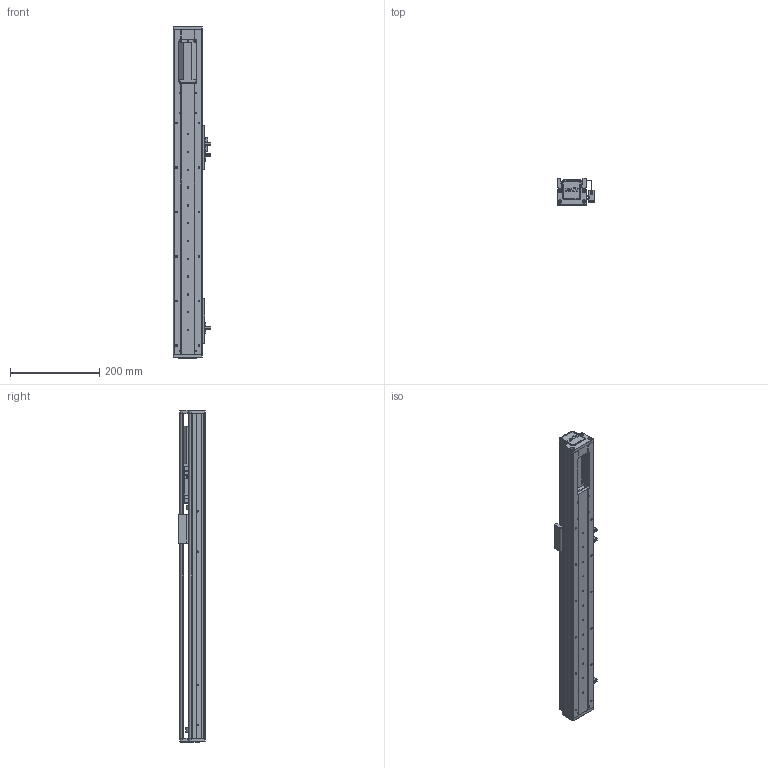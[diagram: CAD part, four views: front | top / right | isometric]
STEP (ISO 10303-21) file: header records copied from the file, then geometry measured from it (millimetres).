
FILE_DESCRIPTION (( 'STEP AP203' ), '1' );
FILE_NAME ('RY60-L1210-300-IK.SLDASM_400.step', '2021-02-22T05:12:05', ( '盈信电脑' ), ( '东莞市道滘镇水果街19号' ), 'SwSTEP 2.0', 'SolidWorks 2012', '' );
FILE_SCHEMA (( 'CONFIG_CONTROL_DESIGN' ));
Length unit declared in the file: millimetre
Products named in the file (12): RY60-L1210-300-IK.SLDASM_400; RY60-内置电机板100W（m3）; 滅袉蝶18-10; RY60綴裔啣; 覜茼ん672; 侂狟100W; RY80俋离覜茼え; 672嫖萇羲壽假蚾釱; RY60萇儂傷盓傅釱; RY60-300倰第裔啣-IK_400; RY60臏賑輸; RY60-300倰第菁釱-IK_400
Assembly tree (18 placements, depth 2):
  RY60-L1210-300-IK.SLDASM_400
    RY60-300倰第菁釱-IK_400
    RY60臏賑輸
    RY60-300倰第裔啣-IK_400
    RY60萇儂傷盓傅釱
    672嫖萇羲壽假蚾釱  x2
    RY60綴裔啣  x2
    覜茼ん672  x3
    RY80俋离覜茼え
    侂狟100W
    滅袉蝶18-10  x4
    RY60-内置电机板100W（m3）
Bounding box: 83.7 x 61 x 746 mm (x, y, z)
Volume: 970493.4 mm3; surface area: 471901.3 mm2
Topology: 18 solids, 18 shells, 1498 faces, 4191 edges, 2713 vertices
Faces by surface type: plane 801, cylinder 587, cone 94, bspline 16
Entity records: 40664 total; most frequent: CARTESIAN_POINT 9778, ORIENTED_EDGE 6286, DIRECTION 5988, EDGE_CURVE 3143, VERTEX_POINT 2059, AXIS2_PLACEMENT_3D 2023, VECTOR 1942, LINE 1942
